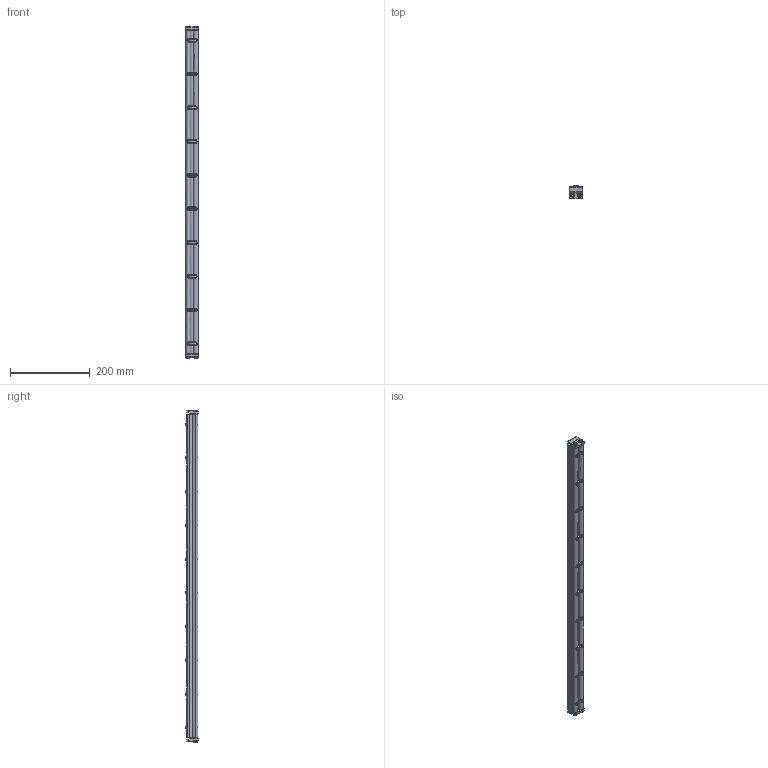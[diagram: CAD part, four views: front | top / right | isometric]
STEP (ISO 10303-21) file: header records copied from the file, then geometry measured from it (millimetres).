
FILE_DESCRIPTION((''),'2;1');
FILE_NAME('206523-32_ASM','2023-02-27T',('jenni.wallner'),(''),'PRO/ENGINEER BY PARAMETRIC TECHNOLOGY CORPORATION, 2012420','PRO/ENGINEER BY PARAMETRIC TECHNOLOGY CORPORATION, 2012420','');
FILE_SCHEMA(('CONFIG_CONTROL_DESIGN'));
Length unit declared in the file: inch
Products named in the file (7): 240826; 9506XXM_950616M; 205977_205978_205979_205978; 2410WW_241032; 2436WW_243632; ASM0001_ASM; 206523-32_ASM
Assembly tree (19 placements, depth 3):
  206523-32_ASM
    ASM0001_ASM
      240826  x10
      9506XXM_950616M  x4
      205977_205978_205979_205978  x2
      2410WW_241032
      2436WW_243632
Bounding box: 30.89 x 33.01 x 833.35 mm (x, y, z)
Volume: 398988 mm3; surface area: 237486.6 mm2
Topology: 18 solids, 18 shells, 660 faces, 1858 edges, 1222 vertices
Faces by surface type: cylinder 298, plane 222, cone 100, torus 40
Entity records: 15680 total; most frequent: CARTESIAN_POINT 4111, ORIENTED_EDGE 2546, DIRECTION 2347, EDGE_CURVE 1273, AXIS2_PLACEMENT_3D 875, VERTEX_POINT 848, VECTOR 597, LINE 597
